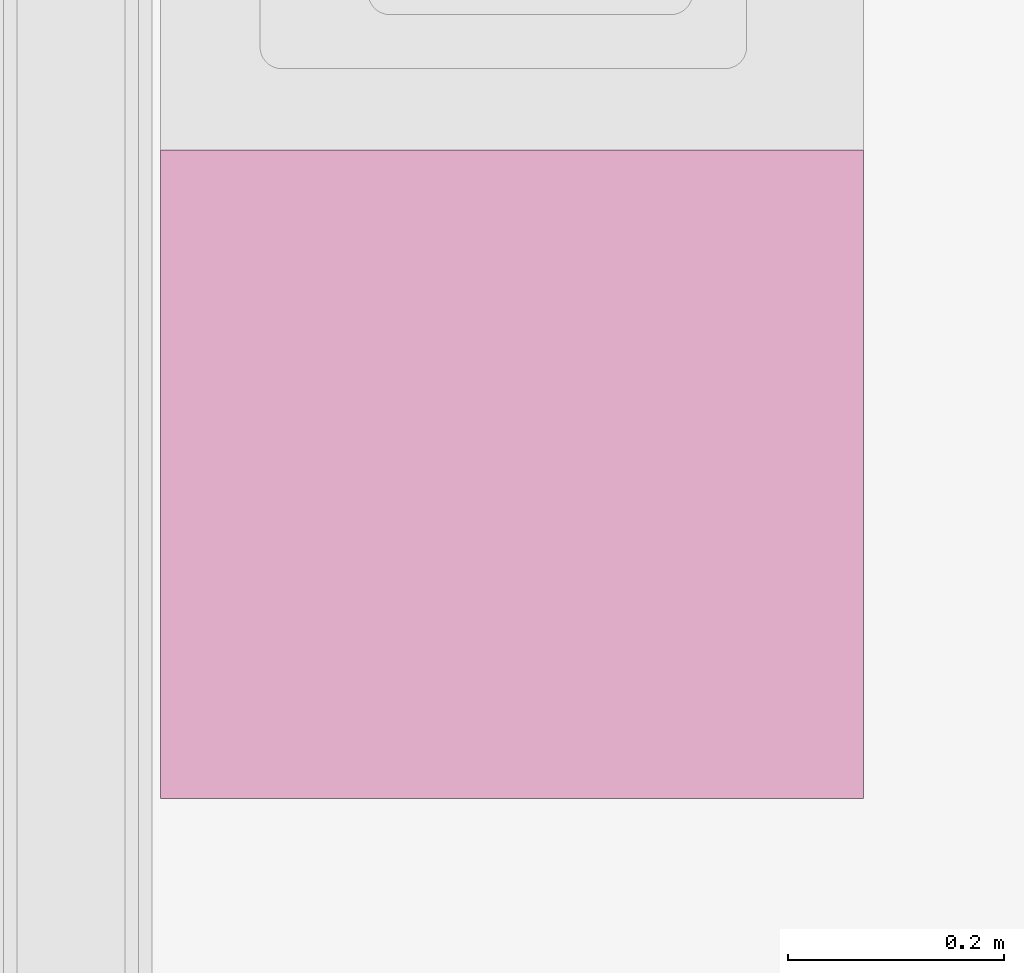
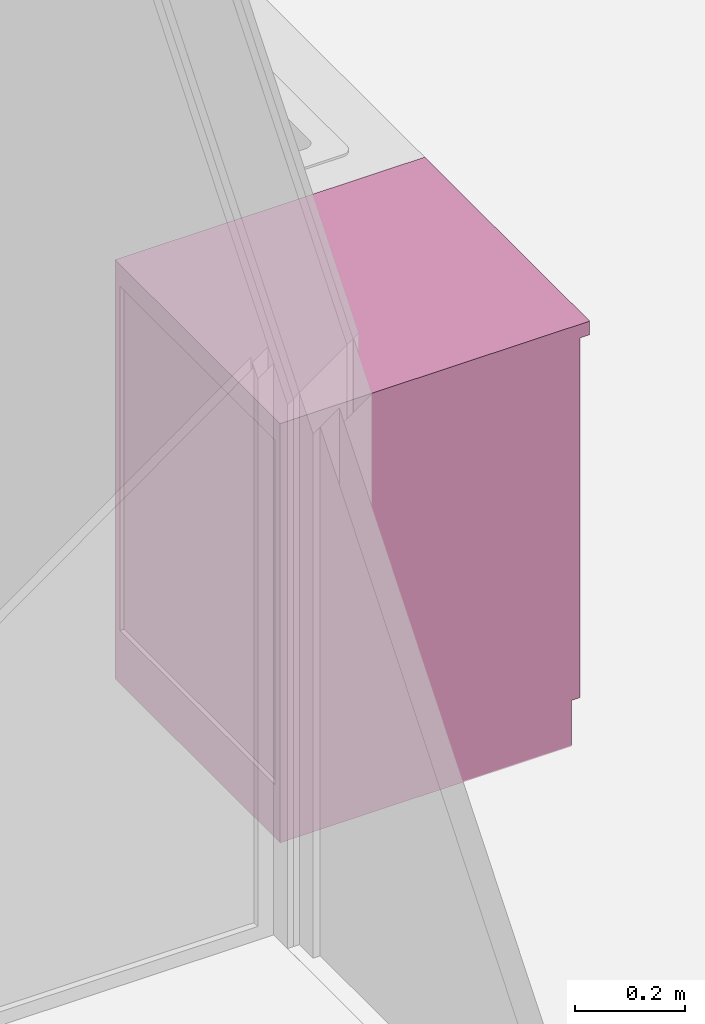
# One storey, part 100 of 109: 1 furnishing.
"""IFC2X3 building model written with IfcOpenShell, lengths in millimetres."""

from ifc_helpers import new_model, entity, si_unit, converted_unit, derived_unit, money_unit, direction, frame, origin_with_axes, place, context, subcontext, project, spatial, faceted_brep, type_object, element, save


model = new_model("IFC2X3")

# Units and contexts
model_context = context("Model", 3, precision=0.01, world=origin_with_axes(), true_north=direction((0.0, 1.0)))
body_context = subcontext(model_context, "Body", "Model", "MODEL_VIEW")
ifc_project = project(units=[si_unit("LENGTHUNIT", "METRE", prefix="MILLI"), si_unit("AREAUNIT", "SQUARE_METRE"), si_unit("VOLUMEUNIT", "CUBIC_METRE"), converted_unit("PLANEANGLEUNIT", "DEGREE", entity("IfcPlaneAngleMeasure", 0.0174532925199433), si_unit("PLANEANGLEUNIT", "RADIAN"), dimensions=[0, 0, 0, 0, 0, 0, 0]), money_unit("EUR"), converted_unit("TIMEUNIT", "Year", entity("IfcTimeMeasure", 31557600.0), si_unit("TIMEUNIT", "SECOND"), dimensions=[0, 0, 1, 0, 0, 0, 0]), si_unit("MASSUNIT", "GRAM", prefix="KILO"), si_unit("THERMODYNAMICTEMPERATUREUNIT", "DEGREE_CELSIUS"), si_unit("LUMINOUSINTENSITYUNIT", "LUMEN"), si_unit("ENERGYUNIT", "JOULE", prefix="MEGA"), derived_unit("THERMALCONDUCTANCEUNIT", [(si_unit("POWERUNIT", "WATT"), 1), (si_unit("LENGTHUNIT", "METRE"), -1), (si_unit("THERMODYNAMICTEMPERATUREUNIT", "KELVIN"), -1)]), derived_unit("SPECIFICHEATCAPACITYUNIT", [(si_unit("ENERGYUNIT", "JOULE"), 1), (si_unit("MASSUNIT", "GRAM", prefix="KILO"), -1), (si_unit("THERMODYNAMICTEMPERATUREUNIT", "KELVIN"), -1)]), derived_unit("MASSDENSITYUNIT", [(si_unit("MASSUNIT", "GRAM", prefix="KILO"), 1), (si_unit("VOLUMEUNIT", "CUBIC_METRE"), -1)])], contexts=[model_context])

# Site, building, storey
site_placement = place(None, origin_with_axes())
site = spatial("IfcSite", under=ifc_project, at=site_placement, Name="<site naam>", CompositionType="ELEMENT")
building_placement = place(site_placement, origin_with_axes())
building = spatial("IfcBuilding", under=site, at=building_placement, Name="<Naam gebouw>", CompositionType="ELEMENT")
storey_placement = place(building_placement, origin_with_axes())
storey = spatial("IfcBuildingStorey", under=building, at=storey_placement, Name="00 Begane grond", CompositionType="ELEMENT", Elevation=0.0)

# Furnishing
furnishing_element_type = type_object("IfcFurnishingElementType", Name="Onderkast recht 27")
furnishing_placement = place(storey_placement, frame((24082.81277827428, 14929.00000000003, 0.0), z_axis=(0.0, 0.0, 1.0), x_axis=(0.0, 1.0, 0.0)))
element("IfcFurnishingElement", 1, at=furnishing_placement, inside=storey, type_object=furnishing_element_type, Name="73_heg_Lege", context=body_context, shape_type="Brep", body=[
    faceted_brep([(0.0, -650.0, 900.0), (0.0, -650.0, 930.0), (-600.0, -650.0, 930.0), (-600.0, -650.0, 900.0), (0.0, 0.0, 900.0), (0.0, 0.0, 930.0), (-600.0, 0.0, 930.0), (-600.0, 0.0, 900.0)], [[[0, 1, 2, 3]], [[4, 5, 1, 0]], [[1, 5, 6, 2]], [[3, 2, 6, 7]], [[0, 3, 7, 4]], [[7, 6, 5, 4]]]),
    faceted_brep([(-1.0, -612.0, 101.0), (-1.0, -630.0, 101.0), (-599.0, -630.0, 101.0), (-599.0, -612.0, 101.0), (-1.0, -612.0, 899.0), (-1.0, -629.9999999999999, 899.0), (-599.0, -629.9999999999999, 899.0), (-599.0, -612.0, 899.0)], [[[0, 1, 2, 3]], [[4, 5, 1, 0]], [[1, 5, 6, 2]], [[3, 2, 6, 7]], [[0, 3, 7, 4]], [[7, 6, 5, 4]]]),
    faceted_brep([(-18.0, -612.0, 100.0), (-18.0, -612.0, 118.0), (-582.0, -612.0, 118.0), (-582.0, -612.0, 100.0), (-18.0, 0.0, 100.0), (-18.0, 0.0, 118.0), (-582.0, 0.0, 118.0), (-582.0, 0.0, 100.0)], [[[0, 1, 2, 3]], [[4, 5, 1, 0]], [[1, 5, 6, 2]], [[3, 2, 6, 7]], [[0, 3, 7, 4]], [[7, 6, 5, 4]]]),
    faceted_brep([(-18.0, -612.0, 882.0), (-582.0, -612.0, 882.0), (-582.0, -552.0, 882.0), (-18.0, -552.0, 882.0), (-18.0, -612.0, 900.0), (-582.0, -612.0, 900.0), (-582.0, -552.0, 900.0), (-18.0, -552.0, 900.0)], [[[0, 1, 2, 3]], [[4, 5, 1, 0]], [[1, 5, 6, 2]], [[3, 2, 6, 7]], [[0, 3, 7, 4]], [[7, 6, 5, 4]]]),
    faceted_brep([(-582.0, 0.0, 882.0), (-18.0, 0.0, 882.0), (-18.0, -60.0, 882.0), (-582.0, -60.0, 882.0), (-582.0, 0.0, 900.0), (-18.0, 0.0, 900.0), (-18.0, -60.0, 900.0), (-582.0, -60.0, 900.0)], [[[0, 1, 2, 3]], [[4, 5, 1, 0]], [[1, 5, 6, 2]], [[3, 2, 6, 7]], [[0, 3, 7, 4]], [[7, 6, 5, 4]]]),
    faceted_brep([(0.0, 0.0, 100.0), (0.0, 0.0, 900.0), (0.0, -612.0, 900.0), (0.0, -612.0, 100.0), (-18.0, 0.0, 100.0), (-18.0, 0.0, 900.0), (-18.0, -612.0, 900.0), (-18.0, -612.0, 100.0)], [[[0, 1, 2, 3]], [[4, 5, 1, 0]], [[1, 5, 6, 2]], [[3, 2, 6, 7]], [[0, 3, 7, 4]], [[7, 6, 5, 4]]]),
    faceted_brep([(-600.0, -612.0, 100.0), (-600.0, -612.0, 900.0), (-600.0, 0.0, 900.0), (-600.0, 0.0, 100.0), (-582.0, -612.0, 100.0), (-582.0, -612.0, 900.0), (-582.0, 0.0, 900.0), (-582.0, 0.0, 100.0)], [[[0, 1, 2, 3]], [[4, 5, 1, 0]], [[1, 5, 6, 2]], [[3, 2, 6, 7]], [[0, 3, 7, 4]], [[7, 6, 5, 4]]]),
    faceted_brep([(-582.0, -9.0, 118.0), (-582.0, -9.0, 882.0), (-18.00000000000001, -9.0, 882.0), (-18.00000000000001, -9.0, 118.0), (-582.0, -18.0, 118.0), (-582.0, -18.0, 882.0), (-18.00000000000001, -18.0, 882.0), (-18.00000000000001, -18.0, 118.0)], [[[0, 1, 2, 3]], [[4, 5, 1, 0]], [[1, 5, 6, 2]], [[3, 2, 6, 7]], [[0, 3, 7, 4]], [[7, 6, 5, 4]]]),
    faceted_brep([(0.0, -612.0, 0.0), (0.0, -612.0, 100.0), (-600.0, -612.0, 100.0), (-600.0, -612.0, 0.0), (0.0, 0.0, 0.0), (0.0, 0.0, 100.0), (-600.0, 0.0, 100.0), (-600.0, 0.0, 0.0)], [[[0, 1, 2, 3]], [[4, 5, 1, 0]], [[1, 5, 6, 2]], [[3, 2, 6, 7]], [[0, 3, 7, 4]], [[7, 6, 5, 4]]]),
])

save(model, "model.ifc")
